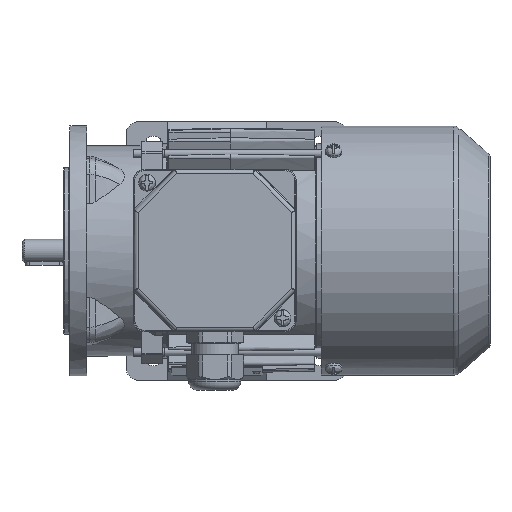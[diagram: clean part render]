
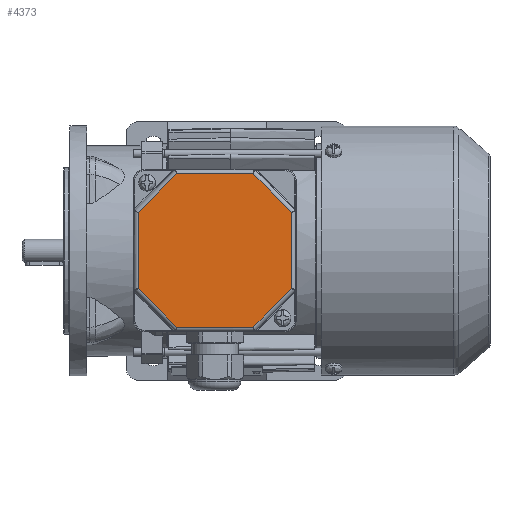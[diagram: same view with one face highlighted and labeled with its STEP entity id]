
A CAD part, top view. The second image highlights one B-rep face of the part: STEP entity #4373.
In plain terms, the highlighted planar face has unit normal (0, 0, 1).
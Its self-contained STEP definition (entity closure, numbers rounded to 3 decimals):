
#4373 = ADVANCED_FACE( '', ( #9375 ), #9376, .T. );
#9375 = FACE_OUTER_BOUND( '', #20271, .T. );
#9376 = PLANE( '', #20272 );
#20271 = EDGE_LOOP( '', ( #35610, #35611, #35612, #35613, #35614, #35615, #35616, #35617 ) );
#20272 = AXIS2_PLACEMENT_3D( '', #35618, #35619, #35620 );
#35610 = ORIENTED_EDGE( '', *, *, #46846, .T. );
#35611 = ORIENTED_EDGE( '', *, *, #48777, .T. );
#35612 = ORIENTED_EDGE( '', *, *, #48778, .T. );
#35613 = ORIENTED_EDGE( '', *, *, #48779, .T. );
#35614 = ORIENTED_EDGE( '', *, *, #46579, .T. );
#35615 = ORIENTED_EDGE( '', *, *, #48780, .T. );
#35616 = ORIENTED_EDGE( '', *, *, #48781, .T. );
#35617 = ORIENTED_EDGE( '', *, *, #44656, .T. );
#35618 = CARTESIAN_POINT( '', ( -39., 39., 12. ) );
#35619 = DIRECTION( '', ( 0., 0., 1. ) );
#35620 = DIRECTION( '', ( 1., 0., 0. ) );
#44656 = EDGE_CURVE( '', #51926, #51924, #51927, .T. );
#46579 = EDGE_CURVE( '', #52706, #55188, #55189, .F. );
#46846 = EDGE_CURVE( '', #51924, #54335, #55619, .F. );
#48777 = EDGE_CURVE( '', #54335, #58493, #58494, .T. );
#48778 = EDGE_CURVE( '', #58493, #58495, #58496, .F. );
#48779 = EDGE_CURVE( '', #58495, #52706, #58497, .T. );
#48780 = EDGE_CURVE( '', #55188, #56760, #58498, .T. );
#48781 = EDGE_CURVE( '', #56760, #51926, #58499, .F. );
#51924 = VERTEX_POINT( '', #62675 );
#51926 = VERTEX_POINT( '', #62677 );
#51927 = LINE( '', #62678, #62679 );
#52706 = VERTEX_POINT( '', #64353 );
#54335 = VERTEX_POINT( '', #68011 );
#55188 = VERTEX_POINT( '', #69627 );
#55189 = LINE( '', #69628, #69629 );
#55619 = LINE( '', #70553, #70554 );
#56760 = VERTEX_POINT( '', #73160 );
#58493 = VERTEX_POINT( '', #76814 );
#58494 = LINE( '', #76815, #76816 );
#58495 = VERTEX_POINT( '', #76817 );
#58496 = LINE( '', #76818, #76819 );
#58497 = LINE( '', #76820, #76821 );
#58498 = LINE( '', #76822, #76823 );
#58499 = LINE( '', #76824, #76825 );
#62675 = CARTESIAN_POINT( '', ( 36.825, -18.255, 12. ) );
#62677 = CARTESIAN_POINT( '', ( 18.255, -36.825, 12. ) );
#62678 = CARTESIAN_POINT( '', ( 37.401, -17.679, 12. ) );
#62679 = VECTOR( '', #82630, 1000. );
#64353 = CARTESIAN_POINT( '', ( -36.825, 18.255, 12. ) );
#68011 = CARTESIAN_POINT( '', ( 36.825, 18.255, 12. ) );
#69627 = CARTESIAN_POINT( '', ( -36.825, -18.255, 12. ) );
#69628 = CARTESIAN_POINT( '', ( -36.825, -19.069, 12. ) );
#69629 = VECTOR( '', #85021, 1000. );
#70553 = CARTESIAN_POINT( '', ( 36.825, 19.069, 12. ) );
#70554 = VECTOR( '', #85340, 1000. );
#73160 = CARTESIAN_POINT( '', ( -18.255, -36.825, 12. ) );
#76814 = CARTESIAN_POINT( '', ( 18.255, 36.825, 12. ) );
#76815 = CARTESIAN_POINT( '', ( 17.679, 37.401, 12. ) );
#76816 = VECTOR( '', #87622, 1000. );
#76817 = CARTESIAN_POINT( '', ( -18.255, 36.825, 12. ) );
#76818 = CARTESIAN_POINT( '', ( -19.069, 36.825, 12. ) );
#76819 = VECTOR( '', #87623, 1000. );
#76820 = CARTESIAN_POINT( '', ( -37.401, 17.679, 12. ) );
#76821 = VECTOR( '', #87624, 1000. );
#76822 = CARTESIAN_POINT( '', ( -17.679, -37.401, 12. ) );
#76823 = VECTOR( '', #87625, 1000. );
#76824 = CARTESIAN_POINT( '', ( 19.069, -36.825, 12. ) );
#76825 = VECTOR( '', #87626, 1000. );
#82630 = DIRECTION( '', ( 0.707, 0.707, 0. ) );
#85021 = DIRECTION( '', ( 0., 1., 0. ) );
#85340 = DIRECTION( '', ( 0., -1., 0. ) );
#87622 = DIRECTION( '', ( -0.707, 0.707, 0. ) );
#87623 = DIRECTION( '', ( 1., 0., 0. ) );
#87624 = DIRECTION( '', ( -0.707, -0.707, 0. ) );
#87625 = DIRECTION( '', ( 0.707, -0.707, 0. ) );
#87626 = DIRECTION( '', ( -1., 0., 0. ) );
